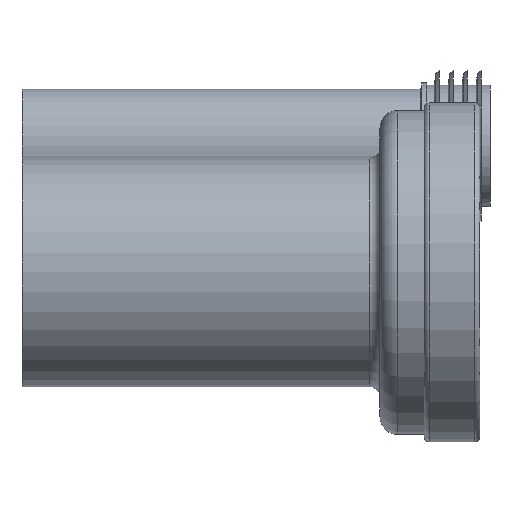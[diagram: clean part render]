
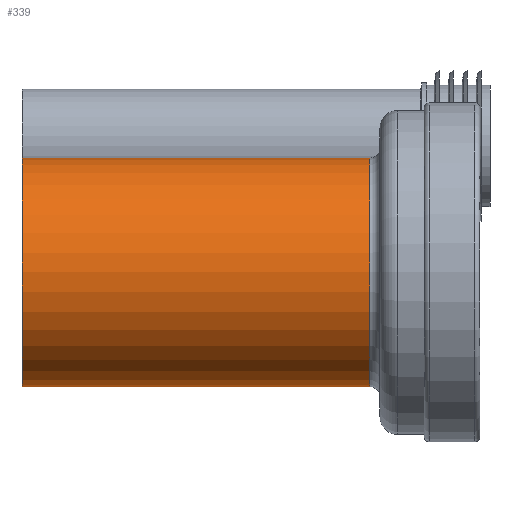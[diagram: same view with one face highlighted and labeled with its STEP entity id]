
A CAD part, left-side view. The second image highlights one B-rep face of the part: STEP entity #339.
In plain terms, the highlighted cylindrical face has radius 45.19 mm (diameter 90.38 mm), a full revolution.
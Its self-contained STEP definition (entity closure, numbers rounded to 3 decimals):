
#339 = ADVANCED_FACE( '', ( #726, #727 ), #728, .T. );
#726 = FACE_OUTER_BOUND( '', #1156, .T. );
#727 = FACE_OUTER_BOUND( '', #1157, .T. );
#728 = CYLINDRICAL_SURFACE( '', #1158, 45.19 );
#1156 = EDGE_LOOP( '', ( #1706 ) );
#1157 = EDGE_LOOP( '', ( #1707 ) );
#1158 = AXIS2_PLACEMENT_3D( '', #1708, #1709, #1710 );
#1706 = ORIENTED_EDGE( '', *, *, #2055, .T. );
#1707 = ORIENTED_EDGE( '', *, *, #2014, .F. );
#1708 = CARTESIAN_POINT( '', ( 0., 0., 0. ) );
#1709 = DIRECTION( '', ( 0., 1., 0. ) );
#1710 = DIRECTION( '', ( 0., 0., -1. ) );
#2014 = EDGE_CURVE( '', #2274, #2274, #2275, .T. );
#2055 = EDGE_CURVE( '', #2335, #2335, #2336, .T. );
#2274 = VERTEX_POINT( '', #2583 );
#2275 = CIRCLE( '', #2584, 45.19 );
#2335 = VERTEX_POINT( '', #2644 );
#2336 = CIRCLE( '', #2645, 45.19 );
#2583 = CARTESIAN_POINT( '', ( 0., 0., -45.19 ) );
#2584 = AXIS2_PLACEMENT_3D( '', #2913, #2914, #2915 );
#2644 = CARTESIAN_POINT( '', ( 0., 137.5, -45.19 ) );
#2645 = AXIS2_PLACEMENT_3D( '', #2976, #2977, #2978 );
#2913 = CARTESIAN_POINT( '', ( 0., 0., 0. ) );
#2914 = DIRECTION( '', ( 0., -1., 0. ) );
#2915 = DIRECTION( '', ( 0., 0., -1. ) );
#2976 = CARTESIAN_POINT( '', ( 0., 137.5, 0. ) );
#2977 = DIRECTION( '', ( 0., -1., 0. ) );
#2978 = DIRECTION( '', ( 0., 0., -1. ) );
